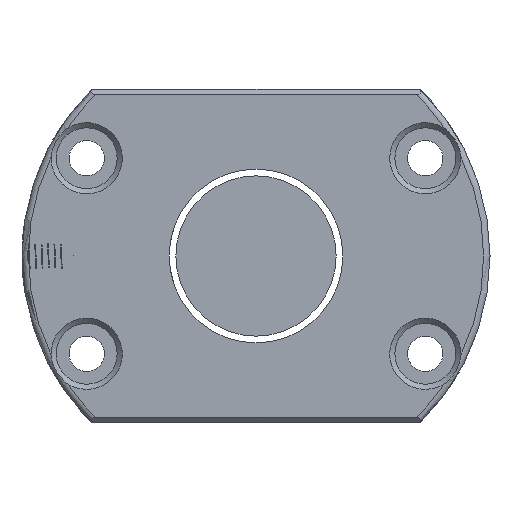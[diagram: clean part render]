
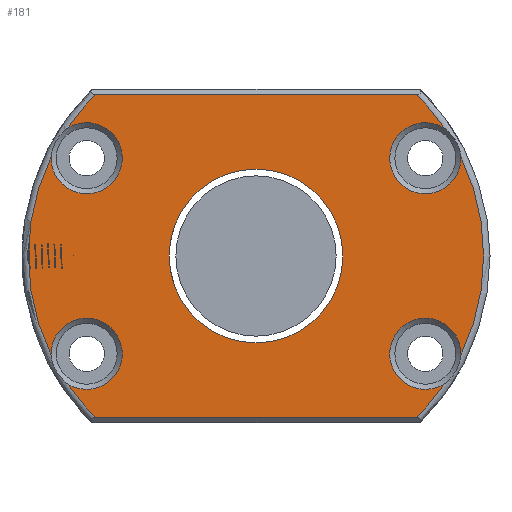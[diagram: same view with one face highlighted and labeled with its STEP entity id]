
A CAD part, left-side view. The second image highlights one B-rep face of the part: STEP entity #181.
In plain terms, the highlighted planar face has unit normal (-1, 0, 0).
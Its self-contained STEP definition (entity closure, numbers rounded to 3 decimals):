
#36 = DIRECTION ( 'NONE',  ( 0., 0., 1. ) ) ;
#66 = CARTESIAN_POINT ( 'NONE',  ( -55., 31.96, 15.453 ) ) ;
#174 = ORIENTED_EDGE ( 'NONE', *, *, #3009, .T. ) ;
#181 = ADVANCED_FACE ( 'NONE', ( #850, #2848 ), #598, .T. ) ;
#195 = DIRECTION ( 'NONE',  ( -1., 0., 0. ) ) ;
#213 = AXIS2_PLACEMENT_3D ( 'NONE', #2968, #3000, #36 ) ;
#229 = VECTOR ( 'NONE', #1058, 1000. ) ;
#267 = AXIS2_PLACEMENT_3D ( 'NONE', #382, #1593, #627 ) ;
#270 = AXIS2_PLACEMENT_3D ( 'NONE', #456, #1713, #2000 ) ;
#296 = CARTESIAN_POINT ( 'NONE',  ( -55., 0., 0. ) ) ;
#382 = CARTESIAN_POINT ( 'NONE',  ( -55., 36.5, 0. ) ) ;
#384 = EDGE_CURVE ( 'NONE', #639, #639, #2203, .T. ) ;
#408 = DIRECTION ( 'NONE',  ( 0., 0., 1. ) ) ;
#419 = VECTOR ( 'NONE', #2928, 1000. ) ;
#425 = CARTESIAN_POINT ( 'NONE',  ( -55., 0., 0. ) ) ;
#428 = CARTESIAN_POINT ( 'NONE',  ( -55., 0., 0. ) ) ;
#456 = CARTESIAN_POINT ( 'NONE',  ( -55., 0., 0. ) ) ;
#459 = ORIENTED_EDGE ( 'NONE', *, *, #2164, .T. ) ;
#462 = ORIENTED_EDGE ( 'NONE', *, *, #2755, .T. ) ;
#513 = CARTESIAN_POINT ( 'NONE',  ( -55., -25.004, 25.2 ) ) ;
#546 = DIRECTION ( 'NONE',  ( 0., 0., 1. ) ) ;
#598 = PLANE ( 'NONE',  #267 ) ;
#611 = VERTEX_POINT ( 'NONE', #2104 ) ;
#627 = DIRECTION ( 'NONE',  ( 0., 0., 1. ) ) ;
#637 = VERTEX_POINT ( 'NONE', #703 ) ;
#639 = VERTEX_POINT ( 'NONE', #2102 ) ;
#668 = ORIENTED_EDGE ( 'NONE', *, *, #1932, .T. ) ;
#671 = CARTESIAN_POINT ( 'NONE',  ( -55., -29.363, -19.952 ) ) ;
#703 = CARTESIAN_POINT ( 'NONE',  ( -55., 29.363, 19.952 ) ) ;
#793 = LINE ( 'NONE', #1250, #229 ) ;
#817 = CIRCLE ( 'NONE', #3020, 5.55 ) ;
#820 = VERTEX_POINT ( 'NONE', #2617 ) ;
#836 = CARTESIAN_POINT ( 'NONE',  ( -55., 31.96, -15.453 ) ) ;
#850 = FACE_OUTER_BOUND ( 'NONE', #2858, .T. ) ;
#861 = DIRECTION ( 'NONE',  ( 1., 0., 0. ) ) ;
#889 = CARTESIAN_POINT ( 'NONE',  ( -55., -26.414, -15.25 ) ) ;
#900 = ORIENTED_EDGE ( 'NONE', *, *, #3101, .T. ) ;
#909 = CIRCLE ( 'NONE', #1174, 35.5 ) ;
#921 = LINE ( 'NONE', #3174, #419 ) ;
#988 = DIRECTION ( 'NONE',  ( 0., 0., 1. ) ) ;
#989 = ORIENTED_EDGE ( 'NONE', *, *, #1249, .T. ) ;
#998 = CARTESIAN_POINT ( 'NONE',  ( -55., -25.004, -25.2 ) ) ;
#1040 = VERTEX_POINT ( 'NONE', #1408 ) ;
#1058 = DIRECTION ( 'NONE',  ( 0., 1., 0. ) ) ;
#1103 = CARTESIAN_POINT ( 'NONE',  ( -55., 26.414, 15.25 ) ) ;
#1116 = AXIS2_PLACEMENT_3D ( 'NONE', #2726, #195, #1453 ) ;
#1149 = EDGE_CURVE ( 'NONE', #820, #1434, #921, .T. ) ;
#1174 = AXIS2_PLACEMENT_3D ( 'NONE', #2040, #2797, #546 ) ;
#1215 = EDGE_LOOP ( 'NONE', ( #2330 ) ) ;
#1232 = VERTEX_POINT ( 'NONE', #2464 ) ;
#1249 = EDGE_CURVE ( 'NONE', #1040, #2707, #2106, .T. ) ;
#1250 = CARTESIAN_POINT ( 'NONE',  ( -55., 24.171, 25.2 ) ) ;
#1266 = CIRCLE ( 'NONE', #270, 35.5 ) ;
#1267 = DIRECTION ( 'NONE',  ( 0., 0., 1. ) ) ;
#1400 = EDGE_CURVE ( 'NONE', #1434, #2071, #1266, .T. ) ;
#1408 = CARTESIAN_POINT ( 'NONE',  ( -55., -31.96, 15.453 ) ) ;
#1420 = DIRECTION ( 'NONE',  ( -1., 0., 0. ) ) ;
#1421 = DIRECTION ( 'NONE',  ( 0., 0., 1. ) ) ;
#1434 = VERTEX_POINT ( 'NONE', #998 ) ;
#1453 = DIRECTION ( 'NONE',  ( 0., 0., 1. ) ) ;
#1467 = AXIS2_PLACEMENT_3D ( 'NONE', #428, #1663, #1421 ) ;
#1593 = DIRECTION ( 'NONE',  ( -1., 0., 0. ) ) ;
#1626 = CIRCLE ( 'NONE', #2266, 35.5 ) ;
#1663 = DIRECTION ( 'NONE',  ( -1., 0., 0. ) ) ;
#1713 = DIRECTION ( 'NONE',  ( -1., 0., 0. ) ) ;
#1884 = DIRECTION ( 'NONE',  ( 1., 0., 0. ) ) ;
#1894 = CIRCLE ( 'NONE', #1116, 35.5 ) ;
#1932 = EDGE_CURVE ( 'NONE', #1933, #611, #2836, .T. ) ;
#1933 = VERTEX_POINT ( 'NONE', #836 ) ;
#2000 = DIRECTION ( 'NONE',  ( 0., 0., 1. ) ) ;
#2040 = CARTESIAN_POINT ( 'NONE',  ( -55., 0., 0. ) ) ;
#2071 = VERTEX_POINT ( 'NONE', #671 ) ;
#2102 = CARTESIAN_POINT ( 'NONE',  ( -55., 0., -13.55 ) ) ;
#2104 = CARTESIAN_POINT ( 'NONE',  ( -55., 29.363, -19.952 ) ) ;
#2106 = CIRCLE ( 'NONE', #213, 5.55 ) ;
#2112 = AXIS2_PLACEMENT_3D ( 'NONE', #296, #2763, #1267 ) ;
#2153 = AXIS2_PLACEMENT_3D ( 'NONE', #3104, #2541, #2604 ) ;
#2164 = EDGE_CURVE ( 'NONE', #2071, #2769, #2529, .T. ) ;
#2168 = CARTESIAN_POINT ( 'NONE',  ( -55., 0., 0. ) ) ;
#2184 = DIRECTION ( 'NONE',  ( 0., 0., -1. ) ) ;
#2203 = CIRCLE ( 'NONE', #2676, 13.55 ) ;
#2211 = AXIS2_PLACEMENT_3D ( 'NONE', #889, #861, #408 ) ;
#2266 = AXIS2_PLACEMENT_3D ( 'NONE', #425, #1420, #988 ) ;
#2310 = EDGE_CURVE ( 'NONE', #1232, #637, #1894, .T. ) ;
#2330 = ORIENTED_EDGE ( 'NONE', *, *, #384, .T. ) ;
#2331 = DIRECTION ( 'NONE',  ( 0., 0., 1. ) ) ;
#2463 = CARTESIAN_POINT ( 'NONE',  ( -55., -29.363, 19.952 ) ) ;
#2464 = CARTESIAN_POINT ( 'NONE',  ( -55., 25.004, 25.2 ) ) ;
#2471 = CIRCLE ( 'NONE', #1467, 35.5 ) ;
#2497 = ORIENTED_EDGE ( 'NONE', *, *, #2310, .T. ) ;
#2511 = EDGE_CURVE ( 'NONE', #611, #820, #1626, .T. ) ;
#2522 = ORIENTED_EDGE ( 'NONE', *, *, #3140, .T. ) ;
#2529 = CIRCLE ( 'NONE', #2211, 5.55 ) ;
#2541 = DIRECTION ( 'NONE',  ( 1., 0., 0. ) ) ;
#2601 = ORIENTED_EDGE ( 'NONE', *, *, #3202, .T. ) ;
#2604 = DIRECTION ( 'NONE',  ( 0., 0., 1. ) ) ;
#2617 = CARTESIAN_POINT ( 'NONE',  ( -55., 25.004, -25.2 ) ) ;
#2676 = AXIS2_PLACEMENT_3D ( 'NONE', #2168, #3175, #2184 ) ;
#2707 = VERTEX_POINT ( 'NONE', #2463 ) ;
#2723 = ORIENTED_EDGE ( 'NONE', *, *, #1400, .T. ) ;
#2726 = CARTESIAN_POINT ( 'NONE',  ( -55., 0., 0. ) ) ;
#2755 = EDGE_CURVE ( 'NONE', #2829, #1933, #2471, .T. ) ;
#2763 = DIRECTION ( 'NONE',  ( -1., 0., 0. ) ) ;
#2769 = VERTEX_POINT ( 'NONE', #2779 ) ;
#2779 = CARTESIAN_POINT ( 'NONE',  ( -55., -31.96, -15.453 ) ) ;
#2792 = CIRCLE ( 'NONE', #2112, 35.5 ) ;
#2797 = DIRECTION ( 'NONE',  ( -1., 0., 0. ) ) ;
#2802 = VERTEX_POINT ( 'NONE', #513 ) ;
#2829 = VERTEX_POINT ( 'NONE', #66 ) ;
#2836 = CIRCLE ( 'NONE', #2153, 5.55 ) ;
#2848 = FACE_BOUND ( 'NONE', #1215, .T. ) ;
#2858 = EDGE_LOOP ( 'NONE', ( #2522, #900, #2497, #2601, #462, #668, #3127, #2872, #2723, #459, #174, #989 ) ) ;
#2872 = ORIENTED_EDGE ( 'NONE', *, *, #1149, .T. ) ;
#2928 = DIRECTION ( 'NONE',  ( 0., -1., 0. ) ) ;
#2968 = CARTESIAN_POINT ( 'NONE',  ( -55., -26.414, 15.25 ) ) ;
#3000 = DIRECTION ( 'NONE',  ( 1., 0., 0. ) ) ;
#3009 = EDGE_CURVE ( 'NONE', #2769, #1040, #2792, .T. ) ;
#3020 = AXIS2_PLACEMENT_3D ( 'NONE', #1103, #1884, #2331 ) ;
#3101 = EDGE_CURVE ( 'NONE', #2802, #1232, #793, .T. ) ;
#3104 = CARTESIAN_POINT ( 'NONE',  ( -55., 26.414, -15.25 ) ) ;
#3127 = ORIENTED_EDGE ( 'NONE', *, *, #2511, .T. ) ;
#3140 = EDGE_CURVE ( 'NONE', #2707, #2802, #909, .T. ) ;
#3174 = CARTESIAN_POINT ( 'NONE',  ( -55., -24.171, -25.2 ) ) ;
#3175 = DIRECTION ( 'NONE',  ( 1., 0., 0. ) ) ;
#3202 = EDGE_CURVE ( 'NONE', #637, #2829, #817, .T. ) ;
